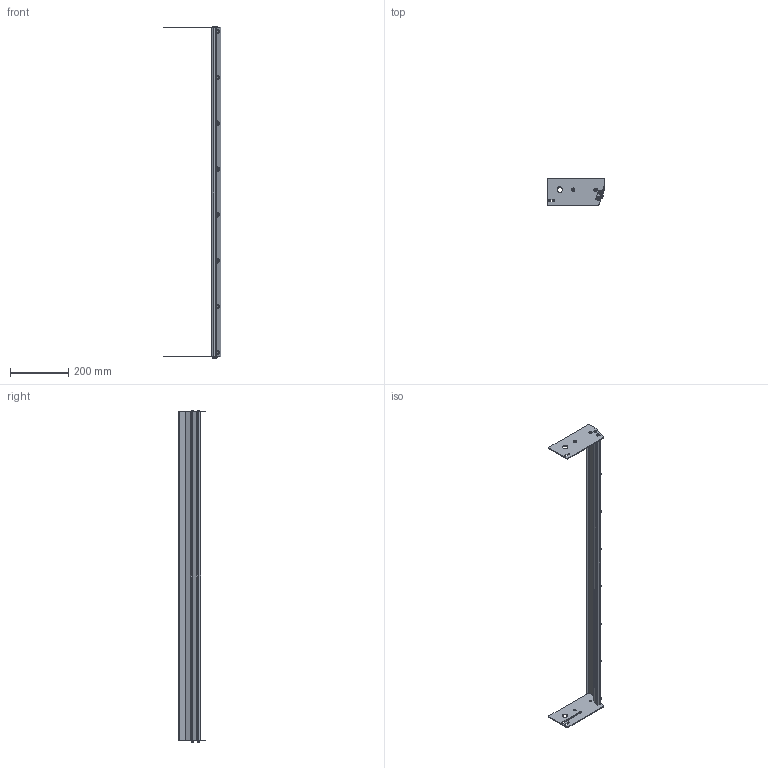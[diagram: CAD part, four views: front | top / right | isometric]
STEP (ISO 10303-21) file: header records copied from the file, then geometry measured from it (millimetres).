
FILE_DESCRIPTION((''),'2;1');
FILE_NAME('351199-44_ASM','2023-03-15T',('jenni.wallner'),(''),'PRO/ENGINEER BY PARAMETRIC TECHNOLOGY CORPORATION, 2012420','PRO/ENGINEER BY PARAMETRIC TECHNOLOGY CORPORATION, 2012420','');
FILE_SCHEMA(('CONFIG_CONTROL_DESIGN'));
Length unit declared in the file: inch
Products named in the file (10): 9505XXM_950512M; 605279P; 9506XXM_950612M; 990603M; 351201; 351200_DEFAULT_AS_MACHINED_; 351202-WW_351202-44; 351203-WW_351203-44; ASM0001_ASM; 351199-44_ASM
Assembly tree (33 placements, depth 3):
  351199-44_ASM
    ASM0001_ASM
      9505XXM_950512M  x4
      605279P  x8
      9506XXM_950612M  x8
      990603M  x8
      351201
      351200_DEFAULT_AS_MACHINED_
      351202-WW_351202-44
      351203-WW_351203-44
Bounding box: 196.11 x 93.08 x 1136.69 mm (x, y, z)
Volume: 554229.3 mm3; surface area: 455292 mm2
Topology: 32 solids, 32 shells, 583 faces, 1367 edges, 872 vertices
Faces by surface type: plane 270, cylinder 197, cone 116
Entity records: 8860 total; most frequent: DIRECTION 1618, CARTESIAN_POINT 1602, ORIENTED_EDGE 1376, EDGE_CURVE 688, AXIS2_PLACEMENT_3D 615, VERTEX_POINT 452, VECTOR 388, LINE 388
